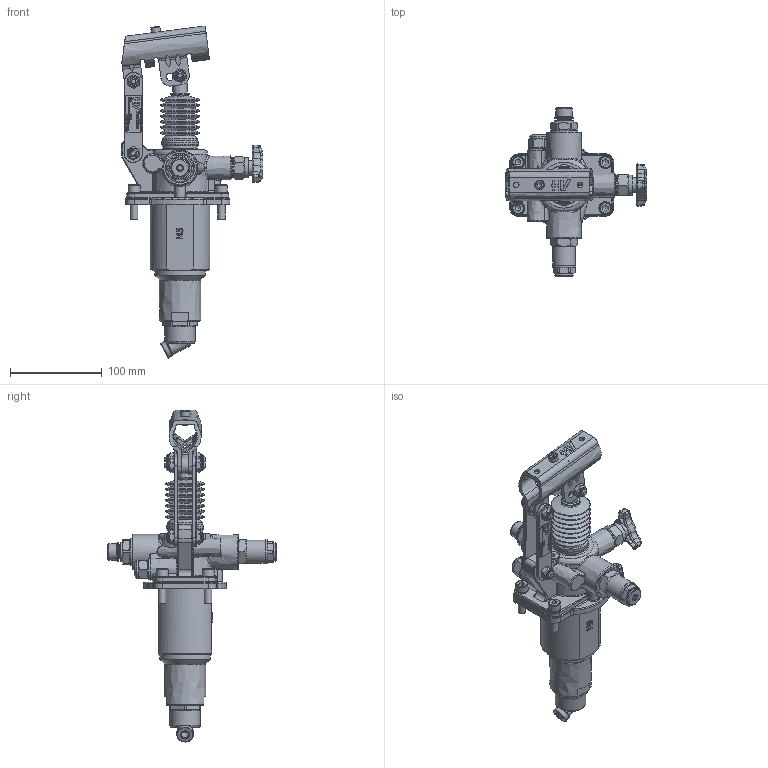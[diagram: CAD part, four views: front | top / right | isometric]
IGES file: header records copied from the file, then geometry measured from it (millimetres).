
Global section: file name: No Iges File Name specified; native system: Autodesk Inventor 2013; preprocessor: AutoDesk Inventor Iges Exporter R2013; author: christian.scardovi; date: 20240329.112146; units: millimetre
Bounding box: 154 x 183 x 361.27 mm (x, y, z)
Surface area: 182693.2 mm2
Topology: 2 solids, 3 shells, 1949 faces, 4935 edges, 3088 vertices
Faces by surface type: bspline 1949
